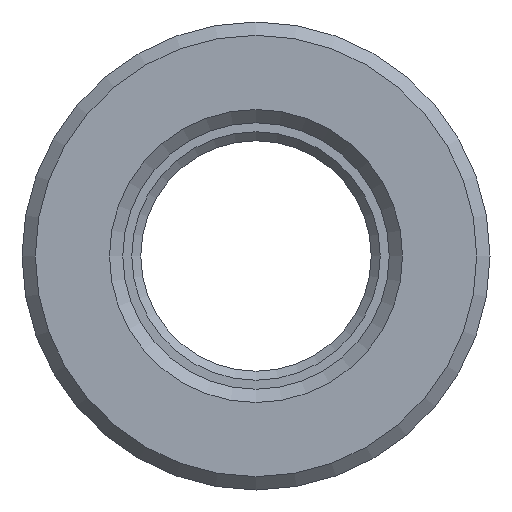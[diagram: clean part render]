
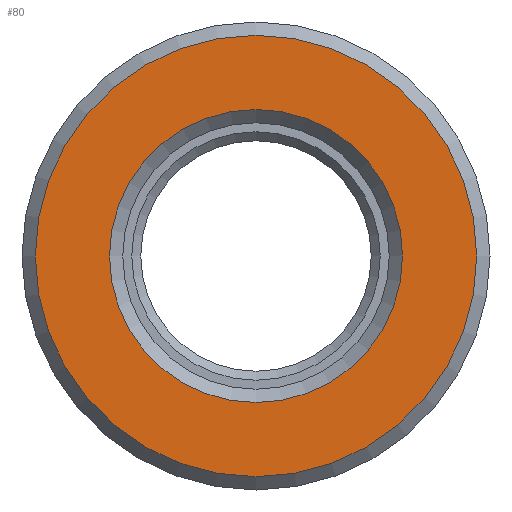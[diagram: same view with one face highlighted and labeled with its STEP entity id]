
A CAD part, front view. The second image highlights one B-rep face of the part: STEP entity #80.
In plain terms, the highlighted planar face has unit normal (0, -1, 0).
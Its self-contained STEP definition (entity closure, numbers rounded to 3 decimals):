
#80 = ADVANCED_FACE( '', ( #114, #115 ), #116, .T. );
#114 = FACE_OUTER_BOUND( '', #183, .T. );
#115 = FACE_BOUND( '', #184, .T. );
#116 = PLANE( '', #185 );
#183 = EDGE_LOOP( '', ( #262 ) );
#184 = EDGE_LOOP( '', ( #263 ) );
#185 = AXIS2_PLACEMENT_3D( '', #264, #265, #266 );
#262 = ORIENTED_EDGE( '', *, *, #358, .T. );
#263 = ORIENTED_EDGE( '', *, *, #357, .F. );
#264 = CARTESIAN_POINT( '', ( 4.07, 0., 0. ) );
#265 = DIRECTION( '', ( 0., -1., 0. ) );
#266 = DIRECTION( '', ( 0., 0., -1. ) );
#357 = EDGE_CURVE( '', #385, #385, #386, .T. );
#358 = EDGE_CURVE( '', #387, #387, #388, .T. );
#385 = VERTEX_POINT( '', #431 );
#386 = CIRCLE( '', #432, 4.07 );
#387 = VERTEX_POINT( '', #433 );
#388 = CIRCLE( '', #434, 6.13 );
#431 = CARTESIAN_POINT( '', ( 0., 0., -4.07 ) );
#432 = AXIS2_PLACEMENT_3D( '', #482, #483, #484 );
#433 = CARTESIAN_POINT( '', ( 0., 0., -6.13 ) );
#434 = AXIS2_PLACEMENT_3D( '', #485, #486, #487 );
#482 = CARTESIAN_POINT( '', ( 0., 0., 0. ) );
#483 = DIRECTION( '', ( 0., -1., 0. ) );
#484 = DIRECTION( '', ( 0., 0., -1. ) );
#485 = CARTESIAN_POINT( '', ( 0., 0., 0. ) );
#486 = DIRECTION( '', ( 0., -1., 0. ) );
#487 = DIRECTION( '', ( 0., 0., -1. ) );
